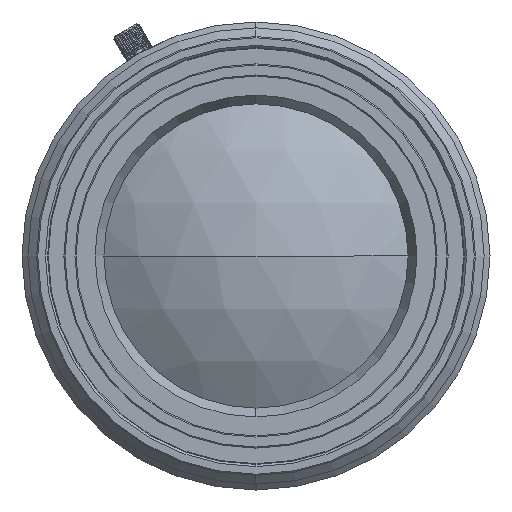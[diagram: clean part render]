
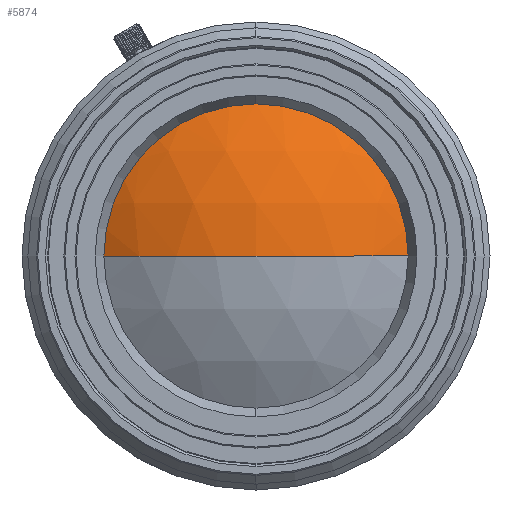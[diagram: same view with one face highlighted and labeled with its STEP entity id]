
A CAD part, left-side view. The second image highlights one B-rep face of the part: STEP entity #5874.
In plain terms, the highlighted spherical face has radius 47.1 mm.
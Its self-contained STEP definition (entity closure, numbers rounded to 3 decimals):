
#440 = CARTESIAN_POINT ( 'NONE',  ( -87.305, 0., 0. ) ) ;
#458 = DIRECTION ( 'NONE',  ( 0., 0., 1. ) ) ;
#745 = VERTEX_POINT ( 'NONE', #3064 ) ;
#922 = AXIS2_PLACEMENT_3D ( 'NONE', #440, #2628, #3335 ) ;
#1282 = DIRECTION ( 'NONE',  ( 0., -1., 0. ) ) ;
#1516 = EDGE_CURVE ( 'NONE', #745, #4078, #7131, .T. ) ;
#1686 = CIRCLE ( 'NONE', #9044, 26. ) ;
#1719 = ORIENTED_EDGE ( 'NONE', *, *, #5054, .F. ) ;
#2006 = ORIENTED_EDGE ( 'NONE', *, *, #6849, .F. ) ;
#2144 = CARTESIAN_POINT ( 'NONE',  ( -134.405, 0., 0. ) ) ;
#2266 = CIRCLE ( 'NONE', #922, 47.1 ) ;
#2628 = DIRECTION ( 'NONE',  ( 0., 0., -1. ) ) ;
#2670 = DIRECTION ( 'NONE',  ( 0., 0., 1. ) ) ;
#2814 = EDGE_CURVE ( 'NONE', #4256, #4221, #3126, .T. ) ;
#2924 = AXIS2_PLACEMENT_3D ( 'NONE', #6937, #7080, #6981 ) ;
#3064 = CARTESIAN_POINT ( 'NONE',  ( -126.578, 26., 0. ) ) ;
#3126 = CIRCLE ( 'NONE', #3732, 47.1 ) ;
#3167 = ORIENTED_EDGE ( 'NONE', *, *, #1516, .F. ) ;
#3335 = DIRECTION ( 'NONE',  ( -1., 0., 0. ) ) ;
#3732 = AXIS2_PLACEMENT_3D ( 'NONE', #6952, #2670, #1282 ) ;
#4043 = ORIENTED_EDGE ( 'NONE', *, *, #2814, .T. ) ;
#4078 = VERTEX_POINT ( 'NONE', #9213 ) ;
#4139 = EDGE_LOOP ( 'NONE', ( #2006, #4043, #1719, #3167 ) ) ;
#4221 = VERTEX_POINT ( 'NONE', #5090 ) ;
#4256 = VERTEX_POINT ( 'NONE', #2144 ) ;
#4619 = FACE_OUTER_BOUND ( 'NONE', #4139, .T. ) ;
#4736 = DIRECTION ( 'NONE',  ( 1., 0., 0. ) ) ;
#5054 = EDGE_CURVE ( 'NONE', #4078, #4221, #1686, .T. ) ;
#5090 = CARTESIAN_POINT ( 'NONE',  ( -126.578, -26., 0. ) ) ;
#5136 = AXIS2_PLACEMENT_3D ( 'NONE', #6045, #458, #8220 ) ;
#5874 = ADVANCED_FACE ( 'NONE', ( #4619 ), #6878, .T. ) ;
#6045 = CARTESIAN_POINT ( 'NONE',  ( -87.305, 0., 0. ) ) ;
#6778 = CARTESIAN_POINT ( 'NONE',  ( -126.578, 0., 0. ) ) ;
#6849 = EDGE_CURVE ( 'NONE', #4256, #745, #2266, .T. ) ;
#6878 = SPHERICAL_SURFACE ( 'NONE', #5136, 47.1 ) ;
#6937 = CARTESIAN_POINT ( 'NONE',  ( -126.578, 0., 0. ) ) ;
#6952 = CARTESIAN_POINT ( 'NONE',  ( -87.305, 0., 0. ) ) ;
#6981 = DIRECTION ( 'NONE',  ( 0., 0., -1. ) ) ;
#7080 = DIRECTION ( 'NONE',  ( 1., 0., 0. ) ) ;
#7131 = CIRCLE ( 'NONE', #2924, 26. ) ;
#7528 = DIRECTION ( 'NONE',  ( 0., 0., -1. ) ) ;
#8220 = DIRECTION ( 'NONE',  ( 0., 1., 0. ) ) ;
#9044 = AXIS2_PLACEMENT_3D ( 'NONE', #6778, #4736, #7528 ) ;
#9213 = CARTESIAN_POINT ( 'NONE',  ( -126.578, 0., 26. ) ) ;
